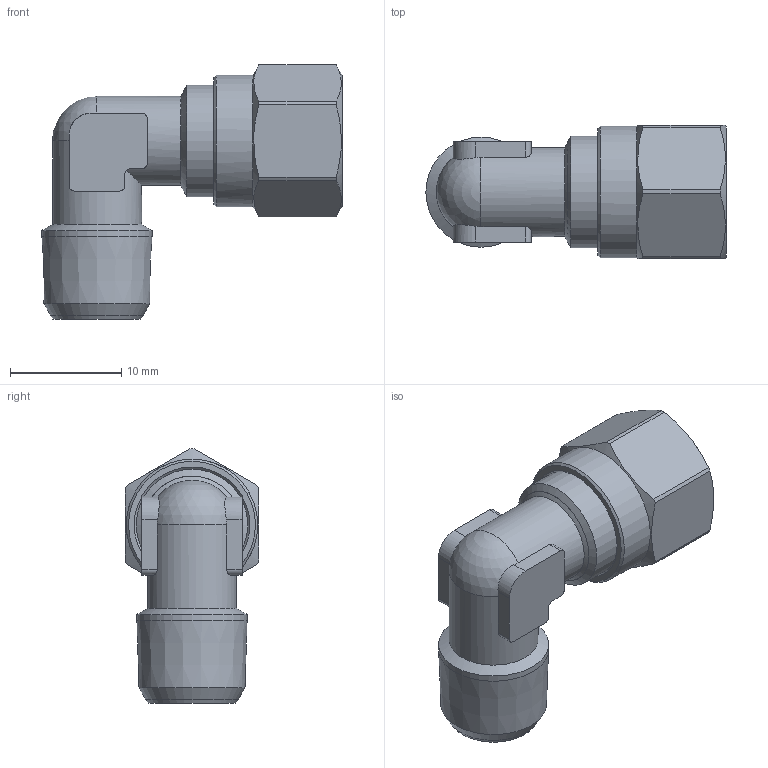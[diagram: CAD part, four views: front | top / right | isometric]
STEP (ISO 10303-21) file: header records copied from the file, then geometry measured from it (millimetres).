
FILE_DESCRIPTION(('Bauteilbeschreibung','HiCAD-Model','HiCAD-STEP-TRANSLATION','Bauteilbeschreibung'),'2;1');
FILE_NAME('B:/ABGLEICH/ZEICHNUNGEN/STEP FÜR INTERNET/STEP/205/92802_205_6_1-8.STP','2011-11-23T16:32:13+00:00',('Konstrukteur'),('Konstrukteur Firma GmbH'),' HiCAD neXt 2008, Step 3.1.1401.2J ','HiCAD neXt 2008','confidential');
FILE_SCHEMA(('AUTOMOTIVE_DESIGN { 1 2 10303 214 0 1 1 1 }'));
Length unit declared in the file: millimetre
Products named in the file (8): A2802_205_6_1_8; A6802; A68020; DIN 13_M10X1; A2602; A26020; R 1_8; DIN0130M10X1
Assembly tree (7 placements, depth 3):
  A2802_205_6_1_8
    A6802
    A68020
      DIN 13_M10X1
    A2602
    A26020
      R 1_8
      DIN0130M10X1
Bounding box: 26.94 x 12 x 22.82 mm (x, y, z)
Volume: 2001.8 mm3; surface area: 3621.8 mm2
Topology: 5 solids, 5 shells, 86 faces, 221 edges, 143 vertices
Faces by surface type: cylinder 34, plane 29, cone 22, sphere 1
Full cylindrical faces by diameter (mm): 4.5 x1, 5 x1, 6 x3, 8 x2, 8.773 x4, 9.884 x1, 10 x3, 11.8 x1
Entity records: 6480 total; most frequent: CARTESIAN_POINT 3687, DIRECTION 412, ORIENTED_EDGE 334, AXIS2_PLACEMENT_3D 178, EDGE_CURVE 167, COLOUR_RGB 151, PRESENTATION_STYLE_ASSIGNMENT 151, CURVE_STYLE 146
